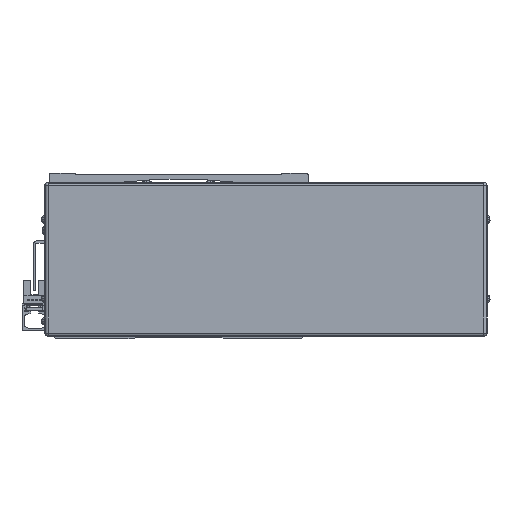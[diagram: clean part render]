
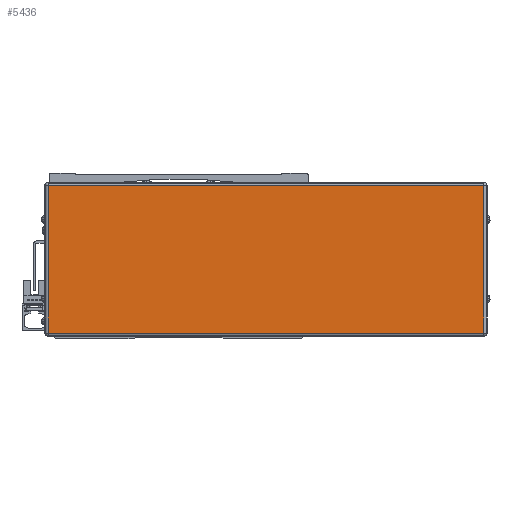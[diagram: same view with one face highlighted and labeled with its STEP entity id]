
A CAD part, front view. The second image highlights one B-rep face of the part: STEP entity #5436.
In plain terms, the highlighted planar face has unit normal (0, -1, 0).
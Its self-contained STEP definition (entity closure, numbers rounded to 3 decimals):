
#5436=ADVANCED_FACE('',(#11979),#11980,.T.);
#11979=FACE_OUTER_BOUND('',#21353,.T.);
#11980=PLANE('',#21354);
#21353=EDGE_LOOP('',(#37593,#37594,#37595,#37596));
#21354=AXIS2_PLACEMENT_3D('',#37597,#37598,#37599);
#37593=ORIENTED_EDGE('',*,*,#50919,.F.);
#37594=ORIENTED_EDGE('',*,*,#55136,.F.);
#37595=ORIENTED_EDGE('',*,*,#50928,.F.);
#37596=ORIENTED_EDGE('',*,*,#55137,.F.);
#37597=CARTESIAN_POINT('',(-545.,77.222,-2.));
#37598=DIRECTION('',(0.,-1.0,0.));
#37599=DIRECTION('',(1.0,0.,0.));
#50919=EDGE_CURVE('',#61434,#61436,#61437,.T.);
#50928=EDGE_CURVE('',#61449,#61451,#61452,.T.);
#55136=EDGE_CURVE('',#61451,#61434,#67939,.T.);
#55137=EDGE_CURVE('',#61436,#61449,#67940,.T.);
#61434=VERTEX_POINT('',#76357);
#61436=VERTEX_POINT('',#76359);
#61437=LINE('',#76360,#76361);
#61449=VERTEX_POINT('',#76376);
#61451=VERTEX_POINT('',#76378);
#61452=LINE('',#76379,#76380);
#67939=LINE('',#86053,#86054);
#67940=LINE('',#86055,#86056);
#76357=CARTESIAN_POINT('',(-682.1,77.222,44.5));
#76359=CARTESIAN_POINT('',(-407.9,77.222,44.5));
#76360=CARTESIAN_POINT('',(-545.,77.222,44.5));
#76361=VECTOR('',#93275,10.0);
#76376=CARTESIAN_POINT('',(-407.9,77.222,-48.5));
#76378=CARTESIAN_POINT('',(-682.1,77.222,-48.5));
#76379=CARTESIAN_POINT('',(-545.,77.222,-48.5));
#76380=VECTOR('',#93288,10.0);
#86053=CARTESIAN_POINT('',(-682.1,77.222,-2.));
#86054=VECTOR('',#98536,10.0);
#86055=CARTESIAN_POINT('',(-407.9,77.222,-2.));
#86056=VECTOR('',#98537,10.0);
#93275=DIRECTION('',(1.0,0.,0.));
#93288=DIRECTION('',(-1.0,0.,0.));
#98536=DIRECTION('',(0.,0.,1.0));
#98537=DIRECTION('',(0.,0.,-1.0));
